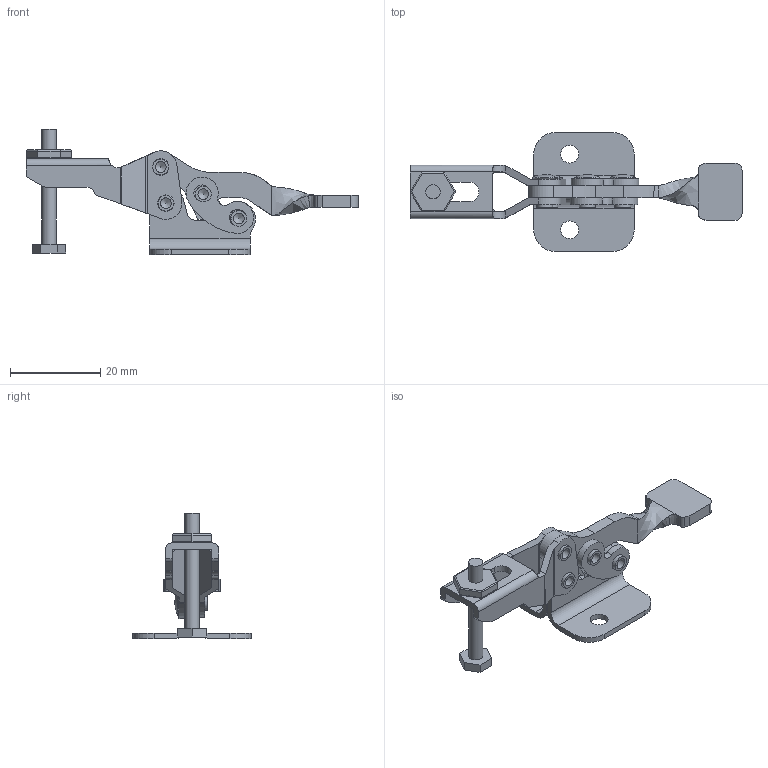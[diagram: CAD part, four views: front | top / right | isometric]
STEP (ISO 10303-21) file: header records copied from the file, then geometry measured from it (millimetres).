
FILE_DESCRIPTION(/* description */ (''),/* implementation_level */ '2;1');
FILE_NAME(/* name */ 'h-100',/* time_stamp */ '2004-12-16T11:02:08-05:00',/* author */ (''),/* organization */ (''),/* preprocessor_version */ 'ST-DEVELOPER v9',/* originating_system */ 'EDS PLM SOLUTIONS - UNIGRAPHICS NX 2.0',/* authorisation */ '');
FILE_SCHEMA (('AUTOMOTIVE_DESIGN { 1 0 10303 214 0 1 1 1 }'));
Length unit declared in the file: inch
Products named in the file (1): mfurAEE3to95
Bounding box: 73.48 x 26.32 x 27.71 mm (x, y, z)
Volume: 3920.9 mm3; surface area: 6507.4 mm2
Topology: 12 solids, 12 shells, 234 faces, 586 edges, 384 vertices
Faces by surface type: cylinder 108, plane 100, bspline 10, torus 8, sphere 4, cone 4
Full cylindrical faces by diameter (mm): 2.381 x4, 3.175 x2, 3.48 x4, 3.632 x14, 3.962 x2
Entity records: 7745 total; most frequent: CARTESIAN_POINT 2079, DIRECTION 1169, ORIENTED_EDGE 1082, EDGE_CURVE 541, AXIS2_PLACEMENT_3D 444, VERTEX_POINT 378, EDGE_LOOP 317, LINE 281
